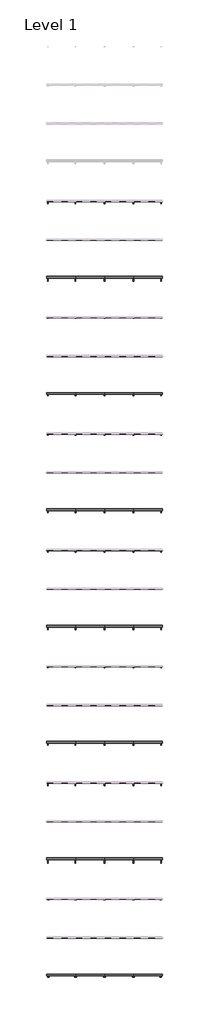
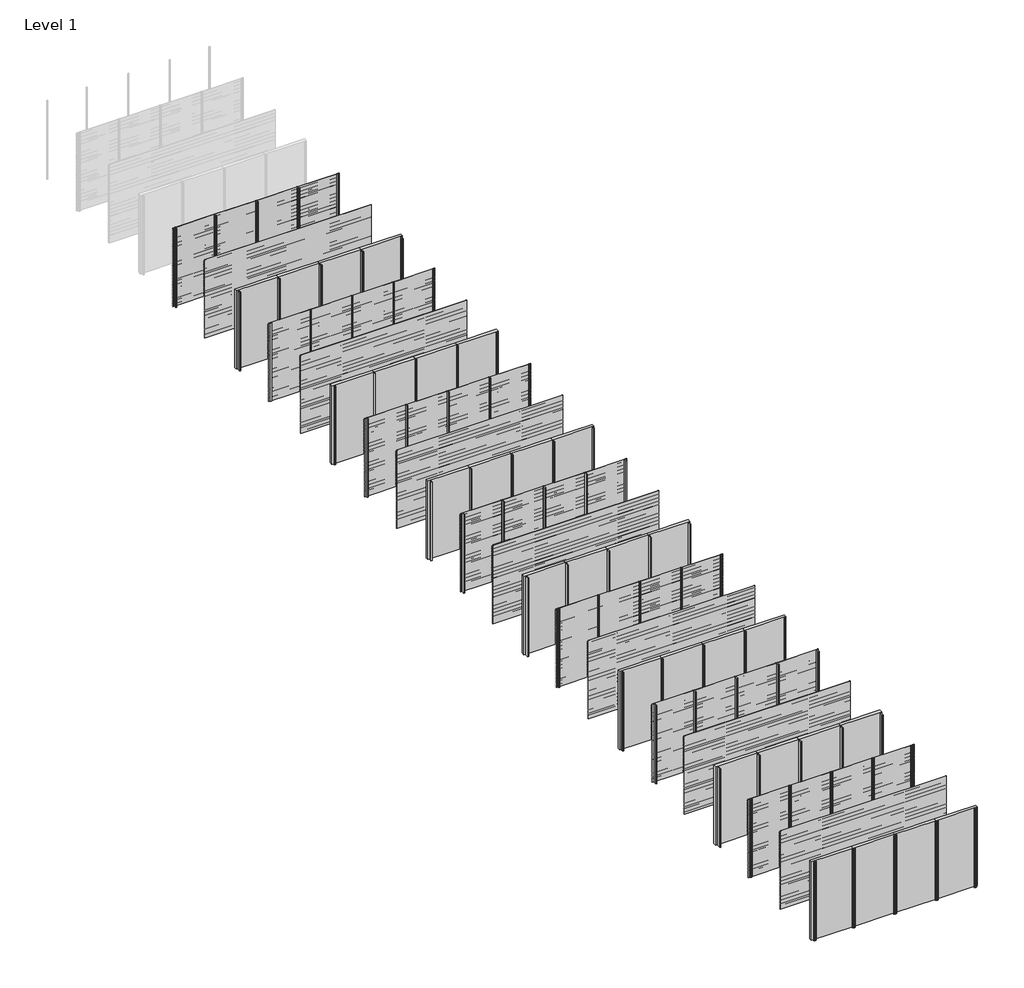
# One storey, part 1 of 35: 70 members, 63 plates.
"""IFC4 building model written with IfcOpenShell, lengths in millimetres."""

from ifc_helpers import new_model, si_unit, origin, origin_with_axes, place, context, project, spatial, polyline, outline, extrude, transform, mapped, element, save
from components import rectangular_mullion_fb497acc, rectangular_mullion_3facce28, rectangular_mullion_6cf2c509, rectangular_mullion_8b77bd57, rectangular_mullion_2c867e25, rectangular_mullion_7803f5c4, rectangular_mullion_82152e2f, rectangular_mullion_bd250e2e, rectangular_mullion_7b49c8f1, rectangular_mullion_2b84ad7e, rectangular_mullion_0fd695e7, rectangular_mullion_9b796d85, rectangular_mullion_dfb17e98, rectangular_mullion_6132f1f1, rectangular_mullion_8f153c19, rectangular_mullion_5b30f3fd, rectangular_mullion_5e0e8e0a, rectangular_mullion_d2d38772, rectangular_mullion_efb80f74, rectangular_mullion_aaa1fb1b, rectangular_mullion_ea9d012c, empty_system_panel_empty_413cb92e

model = new_model("IFC4")

# Units and contexts
model_context = context("Model", 3, world=origin())
ifc_project = project(units=[si_unit("LENGTHUNIT", "METRE", prefix="MILLI")], contexts=[model_context])

# Site, building, storey
site = spatial("IfcSite", under=ifc_project)
building = spatial("IfcBuilding", under=site)
storey = spatial("IfcBuildingStorey", under=building, Name="Level 1", Elevation=0.0)

# Members
placement = place(None, origin())
rectangular_mullion_shape = rectangular_mullion_fb497acc(model_context)
element("IfcMember", 1, ObjectType="Rectangular Mullion : NLRS_21_CWM_drager LD.0995_Storax", at=placement, inside=storey, context=model_context, shape_type="MappedRepresentation", body=[
    mapped(rectangular_mullion_shape, transform((4500.0, -18000.0, 0.0), x_axis=(-1.0, 0.0, 0.0), y_axis=(0.0, 1.0, 0.0), z_axis=(0.0, 0.0, -1.0))),
])
element("IfcMember", 2, ObjectType="Rectangular Mullion : NLRS_21_CWM_drager LD.0995_Storax", at=placement, inside=storey, context=model_context, shape_type="MappedRepresentation", body=[
    mapped(rectangular_mullion_shape, transform((3000.0, -18000.0, 0.0), x_axis=(-1.0, 0.0, 0.0), y_axis=(0.0, 1.0, 0.0), z_axis=(0.0, 0.0, -1.0))),
])
element("IfcMember", 3, ObjectType="Rectangular Mullion : NLRS_21_CWM_drager LD.0995_Storax", at=placement, inside=storey, context=model_context, shape_type="MappedRepresentation", body=[
    mapped(rectangular_mullion_shape, transform((1500.0, -18000.0, 0.0), x_axis=(-1.0, 0.0, 0.0), y_axis=(0.0, 1.0, 0.0), z_axis=(0.0, 0.0, -1.0))),
])
element("IfcMember", 4, ObjectType="Rectangular Mullion : NLRS_21_CWM_drager LD.0995_Storax", at=placement, inside=storey, context=model_context, shape_type="MappedRepresentation", body=[
    mapped(rectangular_mullion_shape, transform((4500.0, -22000.0, 0.0), x_axis=(-1.0, 0.0, 0.0), y_axis=(0.0, 1.0, 0.0), z_axis=(0.0, 0.0, -1.0))),
])
element("IfcMember", 5, ObjectType="Rectangular Mullion : NLRS_21_CWM_drager LD.0995_Storax", at=placement, inside=storey, context=model_context, shape_type="MappedRepresentation", body=[
    mapped(rectangular_mullion_shape, transform((3000.0, -22000.0, 0.0), x_axis=(-1.0, 0.0, 0.0), y_axis=(0.0, 1.0, 0.0), z_axis=(0.0, 0.0, -1.0))),
])
element("IfcMember", 6, ObjectType="Rectangular Mullion : NLRS_21_CWM_drager LD.0995_Storax", at=placement, inside=storey, context=model_context, shape_type="MappedRepresentation", body=[
    mapped(rectangular_mullion_shape, transform((1500.0, -22000.0, 0.0), x_axis=(-1.0, 0.0, 0.0), y_axis=(0.0, 1.0, 0.0), z_axis=(0.0, 0.0, -1.0))),
])
rectangular_mullion_2_shape = rectangular_mullion_3facce28(model_context)
element("IfcMember", 7, ObjectType="Rectangular Mullion : NLRS_21_CWM_drager SD.014_Storax", at=placement, inside=storey, context=model_context, shape_type="MappedRepresentation", body=[
    mapped(rectangular_mullion_2_shape, transform((4500.0, -24000.0, 0.0), x_axis=(-1.0, 0.0, 0.0), y_axis=(0.0, 1.0, 0.0), z_axis=(0.0, 0.0, -1.0))),
])
element("IfcMember", 8, ObjectType="Rectangular Mullion : NLRS_21_CWM_drager SD.014_Storax", at=placement, inside=storey, context=model_context, shape_type="MappedRepresentation", body=[
    mapped(rectangular_mullion_2_shape, transform((3000.0, -24000.0, 0.0), x_axis=(-1.0, 0.0, 0.0), y_axis=(0.0, 1.0, 0.0), z_axis=(0.0, 0.0, -1.0))),
])
element("IfcMember", 9, ObjectType="Rectangular Mullion : NLRS_21_CWM_drager SD.014_Storax", at=placement, inside=storey, context=model_context, shape_type="MappedRepresentation", body=[
    mapped(rectangular_mullion_2_shape, transform((1500.0, -24000.0, 0.0), x_axis=(-1.0, 0.0, 0.0), y_axis=(0.0, 1.0, 0.0), z_axis=(0.0, 0.0, -1.0))),
])
element("IfcMember", 10, ObjectType="Rectangular Mullion : NLRS_21_CWM_drager SD.014_Storax", at=placement, inside=storey, context=model_context, shape_type="MappedRepresentation", body=[
    mapped(rectangular_mullion_2_shape, transform((4500.0, -28000.0, 0.0), x_axis=(-1.0, 0.0, 0.0), y_axis=(0.0, 1.0, 0.0), z_axis=(0.0, 0.0, -1.0))),
])
element("IfcMember", 11, ObjectType="Rectangular Mullion : NLRS_21_CWM_drager SD.014_Storax", at=placement, inside=storey, context=model_context, shape_type="MappedRepresentation", body=[
    mapped(rectangular_mullion_2_shape, transform((3000.0, -28000.0, 0.0), x_axis=(-1.0, 0.0, 0.0), y_axis=(0.0, 1.0, 0.0), z_axis=(0.0, 0.0, -1.0))),
])
element("IfcMember", 12, ObjectType="Rectangular Mullion : NLRS_21_CWM_drager SD.014_Storax", at=placement, inside=storey, context=model_context, shape_type="MappedRepresentation", body=[
    mapped(rectangular_mullion_2_shape, transform((1500.0, -28000.0, 0.0), x_axis=(-1.0, 0.0, 0.0), y_axis=(0.0, 1.0, 0.0), z_axis=(0.0, 0.0, -1.0))),
])
rectangular_mullion_3_shape = rectangular_mullion_6cf2c509(model_context)
element("IfcMember", 13, ObjectType="Rectangular Mullion : NLRS_21_CWM_drager SD.054_Storax", at=placement, inside=storey, context=model_context, shape_type="MappedRepresentation", body=[
    mapped(rectangular_mullion_3_shape, transform((4500.0, -30000.0, 0.0), x_axis=(-1.0, 0.0, 0.0), y_axis=(0.0, 1.0, 0.0), z_axis=(0.0, 0.0, -1.0))),
])
element("IfcMember", 14, ObjectType="Rectangular Mullion : NLRS_21_CWM_drager SD.054_Storax", at=placement, inside=storey, context=model_context, shape_type="MappedRepresentation", body=[
    mapped(rectangular_mullion_3_shape, transform((3000.0, -30000.0, 0.0), x_axis=(-1.0, 0.0, 0.0), y_axis=(0.0, 1.0, 0.0), z_axis=(0.0, 0.0, -1.0))),
])
element("IfcMember", 15, ObjectType="Rectangular Mullion : NLRS_21_CWM_drager SD.054_Storax", at=placement, inside=storey, context=model_context, shape_type="MappedRepresentation", body=[
    mapped(rectangular_mullion_3_shape, transform((1500.0, -30000.0, 0.0), x_axis=(-1.0, 0.0, 0.0), y_axis=(0.0, 1.0, 0.0), z_axis=(0.0, 0.0, -1.0))),
])
element("IfcMember", 16, ObjectType="Rectangular Mullion : NLRS_21_CWM_drager SD.054_Storax", at=placement, inside=storey, context=model_context, shape_type="MappedRepresentation", body=[
    mapped(rectangular_mullion_3_shape, transform((4500.0, -34000.0, 0.0), x_axis=(-1.0, 0.0, 0.0), y_axis=(0.0, 1.0, 0.0), z_axis=(0.0, 0.0, -1.0))),
])
element("IfcMember", 17, ObjectType="Rectangular Mullion : NLRS_21_CWM_drager SD.054_Storax", at=placement, inside=storey, context=model_context, shape_type="MappedRepresentation", body=[
    mapped(rectangular_mullion_3_shape, transform((3000.0, -34000.0, 0.0), x_axis=(-1.0, 0.0, 0.0), y_axis=(0.0, 1.0, 0.0), z_axis=(0.0, 0.0, -1.0))),
])
element("IfcMember", 18, ObjectType="Rectangular Mullion : NLRS_21_CWM_drager SD.054_Storax", at=placement, inside=storey, context=model_context, shape_type="MappedRepresentation", body=[
    mapped(rectangular_mullion_3_shape, transform((1500.0, -34000.0, 0.0), x_axis=(-1.0, 0.0, 0.0), y_axis=(0.0, 1.0, 0.0), z_axis=(0.0, 0.0, -1.0))),
])
rectangular_mullion_4_shape = rectangular_mullion_8b77bd57(model_context)
element("IfcMember", 19, ObjectType="Rectangular Mullion : NLRS_21_CWM_drager SD.100_Storax", at=placement, inside=storey, context=model_context, shape_type="MappedRepresentation", body=[
    mapped(rectangular_mullion_4_shape, transform((4500.0, -36000.0, 0.0), x_axis=(-1.0, 0.0, 0.0), y_axis=(0.0, 1.0, 0.0), z_axis=(0.0, 0.0, -1.0))),
])
element("IfcMember", 20, ObjectType="Rectangular Mullion : NLRS_21_CWM_drager SD.100_Storax", at=placement, inside=storey, context=model_context, shape_type="MappedRepresentation", body=[
    mapped(rectangular_mullion_4_shape, transform((3000.0, -36000.0, 0.0), x_axis=(-1.0, 0.0, 0.0), y_axis=(0.0, 1.0, 0.0), z_axis=(0.0, 0.0, -1.0))),
])
element("IfcMember", 21, ObjectType="Rectangular Mullion : NLRS_21_CWM_drager SD.100_Storax", at=placement, inside=storey, context=model_context, shape_type="MappedRepresentation", body=[
    mapped(rectangular_mullion_4_shape, transform((1500.0, -36000.0, 0.0), x_axis=(-1.0, 0.0, 0.0), y_axis=(0.0, 1.0, 0.0), z_axis=(0.0, 0.0, -1.0))),
])
element("IfcMember", 22, ObjectType="Rectangular Mullion : NLRS_21_CWM_drager SD.100_Storax", at=placement, inside=storey, context=model_context, shape_type="MappedRepresentation", body=[
    mapped(rectangular_mullion_4_shape, transform((4500.0, -40000.0, 0.0), x_axis=(-1.0, 0.0, 0.0), y_axis=(0.0, 1.0, 0.0), z_axis=(0.0, 0.0, -1.0))),
])
element("IfcMember", 23, ObjectType="Rectangular Mullion : NLRS_21_CWM_drager SD.100_Storax", at=placement, inside=storey, context=model_context, shape_type="MappedRepresentation", body=[
    mapped(rectangular_mullion_4_shape, transform((3000.0, -40000.0, 0.0), x_axis=(-1.0, 0.0, 0.0), y_axis=(0.0, 1.0, 0.0), z_axis=(0.0, 0.0, -1.0))),
])
element("IfcMember", 24, ObjectType="Rectangular Mullion : NLRS_21_CWM_drager SD.100_Storax", at=placement, inside=storey, context=model_context, shape_type="MappedRepresentation", body=[
    mapped(rectangular_mullion_4_shape, transform((1500.0, -40000.0, 0.0), x_axis=(-1.0, 0.0, 0.0), y_axis=(0.0, 1.0, 0.0), z_axis=(0.0, 0.0, -1.0))),
])
rectangular_mullion_5_shape = rectangular_mullion_2c867e25(model_context)
element("IfcMember", 25, ObjectType="Rectangular Mullion : NLRS_21_CWM_drager LD.0440_Storax", at=placement, inside=storey, context=model_context, shape_type="MappedRepresentation", body=[
    mapped(rectangular_mullion_5_shape, transform((4500.0, -42000.0, 0.0), x_axis=(-1.0, 0.0, 0.0), y_axis=(0.0, 1.0, 0.0), z_axis=(0.0, 0.0, -1.0))),
])
element("IfcMember", 26, ObjectType="Rectangular Mullion : NLRS_21_CWM_drager LD.0440_Storax", at=placement, inside=storey, context=model_context, shape_type="MappedRepresentation", body=[
    mapped(rectangular_mullion_5_shape, transform((3000.0, -42000.0, 0.0), x_axis=(-1.0, 0.0, 0.0), y_axis=(0.0, 1.0, 0.0), z_axis=(0.0, 0.0, -1.0))),
])
element("IfcMember", 27, ObjectType="Rectangular Mullion : NLRS_21_CWM_drager LD.0440_Storax", at=placement, inside=storey, context=model_context, shape_type="MappedRepresentation", body=[
    mapped(rectangular_mullion_5_shape, transform((1500.0, -42000.0, 0.0), x_axis=(-1.0, 0.0, 0.0), y_axis=(0.0, 1.0, 0.0), z_axis=(0.0, 0.0, -1.0))),
])
element("IfcMember", 28, ObjectType="Rectangular Mullion : NLRS_21_CWM_drager LD.0440_Storax", at=placement, inside=storey, context=model_context, shape_type="MappedRepresentation", body=[
    mapped(rectangular_mullion_5_shape, transform((4500.0, -46000.0, 0.0), x_axis=(-1.0, 0.0, 0.0), y_axis=(0.0, 1.0, 0.0), z_axis=(0.0, 0.0, -1.0))),
])
element("IfcMember", 29, ObjectType="Rectangular Mullion : NLRS_21_CWM_drager LD.0440_Storax", at=placement, inside=storey, context=model_context, shape_type="MappedRepresentation", body=[
    mapped(rectangular_mullion_5_shape, transform((3000.0, -46000.0, 0.0), x_axis=(-1.0, 0.0, 0.0), y_axis=(0.0, 1.0, 0.0), z_axis=(0.0, 0.0, -1.0))),
])
element("IfcMember", 30, ObjectType="Rectangular Mullion : NLRS_21_CWM_drager LD.0440_Storax", at=placement, inside=storey, context=model_context, shape_type="MappedRepresentation", body=[
    mapped(rectangular_mullion_5_shape, transform((1500.0, -46000.0, 0.0), x_axis=(-1.0, 0.0, 0.0), y_axis=(0.0, 1.0, 0.0), z_axis=(0.0, 0.0, -1.0))),
])
rectangular_mullion_6_shape = rectangular_mullion_7803f5c4(model_context)
element("IfcMember", 31, ObjectType="Rectangular Mullion : NLRS_21_CWM_drager LD.1250_Storax", at=placement, inside=storey, context=model_context, shape_type="MappedRepresentation", body=[
    mapped(rectangular_mullion_6_shape, transform((4500.0, -48000.0, 0.0), x_axis=(-1.0, 0.0, 0.0), y_axis=(0.0, 1.0, 0.0), z_axis=(0.0, 0.0, -1.0))),
])
element("IfcMember", 32, ObjectType="Rectangular Mullion : NLRS_21_CWM_drager LD.1250_Storax", at=placement, inside=storey, context=model_context, shape_type="MappedRepresentation", body=[
    mapped(rectangular_mullion_6_shape, transform((3000.0, -48000.0, 0.0), x_axis=(-1.0, 0.0, 0.0), y_axis=(0.0, 1.0, 0.0), z_axis=(0.0, 0.0, -1.0))),
])
element("IfcMember", 33, ObjectType="Rectangular Mullion : NLRS_21_CWM_drager LD.1250_Storax", at=placement, inside=storey, context=model_context, shape_type="MappedRepresentation", body=[
    mapped(rectangular_mullion_6_shape, transform((1500.0, -48000.0, 0.0), x_axis=(-1.0, 0.0, 0.0), y_axis=(0.0, 1.0, 0.0), z_axis=(0.0, 0.0, -1.0))),
])
element("IfcMember", 34, ObjectType="Rectangular Mullion : NLRS_21_CWM_drager LD.1250_Storax", at=placement, inside=storey, context=model_context, shape_type="MappedRepresentation", body=[
    mapped(rectangular_mullion_6_shape, transform((4500.0, -52000.0, 0.0), x_axis=(-1.0, 0.0, 0.0), y_axis=(0.0, 1.0, 0.0), z_axis=(0.0, 0.0, -1.0))),
])
element("IfcMember", 35, ObjectType="Rectangular Mullion : NLRS_21_CWM_drager LD.1250_Storax", at=placement, inside=storey, context=model_context, shape_type="MappedRepresentation", body=[
    mapped(rectangular_mullion_6_shape, transform((3000.0, -52000.0, 0.0), x_axis=(-1.0, 0.0, 0.0), y_axis=(0.0, 1.0, 0.0), z_axis=(0.0, 0.0, -1.0))),
])
element("IfcMember", 36, ObjectType="Rectangular Mullion : NLRS_21_CWM_drager LD.1250_Storax", at=placement, inside=storey, context=model_context, shape_type="MappedRepresentation", body=[
    mapped(rectangular_mullion_6_shape, transform((1500.0, -52000.0, 0.0), x_axis=(-1.0, 0.0, 0.0), y_axis=(0.0, 1.0, 0.0), z_axis=(0.0, 0.0, -1.0))),
])
rectangular_mullion_7_shape = rectangular_mullion_82152e2f(model_context)
element("IfcMember", 37, ObjectType="Rectangular Mullion : NLRS_21_CWM_drager LD.0240_Storax", at=placement, inside=storey, context=model_context, shape_type="MappedRepresentation", body=[
    mapped(rectangular_mullion_7_shape, transform((4500.0, -54000.0, 0.0), x_axis=(-1.0, 0.0, 0.0), y_axis=(0.0, 1.0, 0.0), z_axis=(0.0, 0.0, -1.0))),
])
element("IfcMember", 38, ObjectType="Rectangular Mullion : NLRS_21_CWM_drager LD.0240_Storax", at=placement, inside=storey, context=model_context, shape_type="MappedRepresentation", body=[
    mapped(rectangular_mullion_7_shape, transform((3000.0, -54000.0, 0.0), x_axis=(-1.0, 0.0, 0.0), y_axis=(0.0, 1.0, 0.0), z_axis=(0.0, 0.0, -1.0))),
])
element("IfcMember", 39, ObjectType="Rectangular Mullion : NLRS_21_CWM_drager LD.0240_Storax", at=placement, inside=storey, context=model_context, shape_type="MappedRepresentation", body=[
    mapped(rectangular_mullion_7_shape, transform((1500.0, -54000.0, 0.0), x_axis=(-1.0, 0.0, 0.0), y_axis=(0.0, 1.0, 0.0), z_axis=(0.0, 0.0, -1.0))),
])
element("IfcMember", 40, ObjectType="Rectangular Mullion : NLRS_21_CWM_drager LD.0240_Storax", at=placement, inside=storey, context=model_context, shape_type="MappedRepresentation", body=[
    mapped(rectangular_mullion_7_shape, transform((4500.0, -58000.0, 0.0), x_axis=(-1.0, 0.0, 0.0), y_axis=(0.0, 1.0, 0.0), z_axis=(0.0, 0.0, -1.0))),
])
element("IfcMember", 41, ObjectType="Rectangular Mullion : NLRS_21_CWM_drager LD.0240_Storax", at=placement, inside=storey, context=model_context, shape_type="MappedRepresentation", body=[
    mapped(rectangular_mullion_7_shape, transform((3000.0, -58000.0, 0.0), x_axis=(-1.0, 0.0, 0.0), y_axis=(0.0, 1.0, 0.0), z_axis=(0.0, 0.0, -1.0))),
])
element("IfcMember", 42, ObjectType="Rectangular Mullion : NLRS_21_CWM_drager LD.0240_Storax", at=placement, inside=storey, context=model_context, shape_type="MappedRepresentation", body=[
    mapped(rectangular_mullion_7_shape, transform((1500.0, -58000.0, 0.0), x_axis=(-1.0, 0.0, 0.0), y_axis=(0.0, 1.0, 0.0), z_axis=(0.0, 0.0, -1.0))),
])
rectangular_mullion_8_shape = rectangular_mullion_bd250e2e(model_context)
element("IfcMember", 43, ObjectType="Rectangular Mullion : NLRS_21_CWM_drager LD.0995 - links_Storax", at=placement, inside=storey, context=model_context, shape_type="MappedRepresentation", body=[
    mapped(rectangular_mullion_8_shape, transform((0.0, -18000.0, 0.0), x_axis=(-1.0, 0.0, 0.0), y_axis=(0.0, 1.0, 0.0), z_axis=(0.0, 0.0, -1.0))),
])
element("IfcMember", 44, ObjectType="Rectangular Mullion : NLRS_21_CWM_drager LD.0995 - links_Storax", at=placement, inside=storey, context=model_context, shape_type="MappedRepresentation", body=[
    mapped(rectangular_mullion_8_shape, transform((0.0, -22000.0, 0.0), x_axis=(-1.0, 0.0, 0.0), y_axis=(0.0, 1.0, 0.0), z_axis=(0.0, 0.0, -1.0))),
])
rectangular_mullion_9_shape = rectangular_mullion_7b49c8f1(model_context)
element("IfcMember", 45, ObjectType="Rectangular Mullion : NLRS_21_CWM_drager LD.0995 - rechts_Storax", at=placement, inside=storey, context=model_context, shape_type="MappedRepresentation", body=[
    mapped(rectangular_mullion_9_shape, transform((6000.0, -18000.0, 3000.0), x_axis=(1.0, 0.0, 0.0), y_axis=(0.0, 1.0, 0.0), z_axis=(0.0, 0.0, 1.0))),
])
element("IfcMember", 46, ObjectType="Rectangular Mullion : NLRS_21_CWM_drager LD.0995 - rechts_Storax", at=placement, inside=storey, context=model_context, shape_type="MappedRepresentation", body=[
    mapped(rectangular_mullion_9_shape, transform((6000.0, -22000.0, 3000.0), x_axis=(1.0, 0.0, 0.0), y_axis=(0.0, 1.0, 0.0), z_axis=(0.0, 0.0, 1.0))),
])
rectangular_mullion_10_shape = rectangular_mullion_2b84ad7e(model_context)
element("IfcMember", 47, ObjectType="Rectangular Mullion : NLRS_21_CWM_drager SD.014 - links_Storax", at=placement, inside=storey, context=model_context, shape_type="MappedRepresentation", body=[
    mapped(rectangular_mullion_10_shape, transform((0.0, -24000.0, 0.0), x_axis=(-1.0, 0.0, 0.0), y_axis=(0.0, 1.0, 0.0), z_axis=(0.0, 0.0, -1.0))),
])
element("IfcMember", 48, ObjectType="Rectangular Mullion : NLRS_21_CWM_drager SD.014 - links_Storax", at=placement, inside=storey, context=model_context, shape_type="MappedRepresentation", body=[
    mapped(rectangular_mullion_10_shape, transform((0.0, -28000.0, 0.0), x_axis=(-1.0, 0.0, 0.0), y_axis=(0.0, 1.0, 0.0), z_axis=(0.0, 0.0, -1.0))),
])
rectangular_mullion_11_shape = rectangular_mullion_0fd695e7(model_context)
element("IfcMember", 49, ObjectType="Rectangular Mullion : NLRS_21_CWM_drager SD.014 - rechts_Storax", at=placement, inside=storey, context=model_context, shape_type="MappedRepresentation", body=[
    mapped(rectangular_mullion_11_shape, transform((6000.0, -24000.0, 3000.0), x_axis=(1.0, 0.0, 0.0), y_axis=(0.0, 1.0, 0.0), z_axis=(0.0, 0.0, 1.0))),
])
element("IfcMember", 50, ObjectType="Rectangular Mullion : NLRS_21_CWM_drager SD.014 - rechts_Storax", at=placement, inside=storey, context=model_context, shape_type="MappedRepresentation", body=[
    mapped(rectangular_mullion_11_shape, transform((6000.0, -28000.0, 3000.0), x_axis=(1.0, 0.0, 0.0), y_axis=(0.0, 1.0, 0.0), z_axis=(0.0, 0.0, 1.0))),
])
rectangular_mullion_12_shape = rectangular_mullion_9b796d85(model_context)
element("IfcMember", 51, ObjectType="Rectangular Mullion : NLRS_21_CWM_drager SD.054 - links_Storax", at=placement, inside=storey, context=model_context, shape_type="MappedRepresentation", body=[
    mapped(rectangular_mullion_12_shape, transform((0.0, -30000.0, 0.0), x_axis=(-1.0, 0.0, 0.0), y_axis=(0.0, 1.0, 0.0), z_axis=(0.0, 0.0, -1.0))),
])
element("IfcMember", 52, ObjectType="Rectangular Mullion : NLRS_21_CWM_drager SD.054 - links_Storax", at=placement, inside=storey, context=model_context, shape_type="MappedRepresentation", body=[
    mapped(rectangular_mullion_12_shape, transform((0.0, -34000.0, 0.0), x_axis=(-1.0, 0.0, 0.0), y_axis=(0.0, 1.0, 0.0), z_axis=(0.0, 0.0, -1.0))),
])
rectangular_mullion_13_shape = rectangular_mullion_dfb17e98(model_context)
element("IfcMember", 53, ObjectType="Rectangular Mullion : NLRS_21_CWM_drager SD.054 - rechts_Storax", at=placement, inside=storey, context=model_context, shape_type="MappedRepresentation", body=[
    mapped(rectangular_mullion_13_shape, transform((6000.0, -30000.0, 3000.0), x_axis=(1.0, 0.0, 0.0), y_axis=(0.0, 1.0, 0.0), z_axis=(0.0, 0.0, 1.0))),
])
element("IfcMember", 54, ObjectType="Rectangular Mullion : NLRS_21_CWM_drager SD.054 - rechts_Storax", at=placement, inside=storey, context=model_context, shape_type="MappedRepresentation", body=[
    mapped(rectangular_mullion_13_shape, transform((6000.0, -34000.0, 3000.0), x_axis=(1.0, 0.0, 0.0), y_axis=(0.0, 1.0, 0.0), z_axis=(0.0, 0.0, 1.0))),
])
rectangular_mullion_14_shape = rectangular_mullion_6132f1f1(model_context)
element("IfcMember", 55, ObjectType="Rectangular Mullion : NLRS_21_CWM_drager SD.100 - links_Storax", at=placement, inside=storey, context=model_context, shape_type="MappedRepresentation", body=[
    mapped(rectangular_mullion_14_shape, transform((0.0, -36000.0, 0.0), x_axis=(-1.0, 0.0, 0.0), y_axis=(0.0, 1.0, 0.0), z_axis=(0.0, 0.0, -1.0))),
])
element("IfcMember", 56, ObjectType="Rectangular Mullion : NLRS_21_CWM_drager SD.100 - links_Storax", at=placement, inside=storey, context=model_context, shape_type="MappedRepresentation", body=[
    mapped(rectangular_mullion_14_shape, transform((0.0, -40000.0, 0.0), x_axis=(-1.0, 0.0, 0.0), y_axis=(0.0, 1.0, 0.0), z_axis=(0.0, 0.0, -1.0))),
])
rectangular_mullion_15_shape = rectangular_mullion_8f153c19(model_context)
element("IfcMember", 57, ObjectType="Rectangular Mullion : NLRS_21_CWM_drager SD.100 - rechts_Storax", at=placement, inside=storey, context=model_context, shape_type="MappedRepresentation", body=[
    mapped(rectangular_mullion_15_shape, transform((6000.0, -36000.0, 3000.0), x_axis=(1.0, 0.0, 0.0), y_axis=(0.0, 1.0, 0.0), z_axis=(0.0, 0.0, 1.0))),
])
element("IfcMember", 58, ObjectType="Rectangular Mullion : NLRS_21_CWM_drager SD.100 - rechts_Storax", at=placement, inside=storey, context=model_context, shape_type="MappedRepresentation", body=[
    mapped(rectangular_mullion_15_shape, transform((6000.0, -40000.0, 3000.0), x_axis=(1.0, 0.0, 0.0), y_axis=(0.0, 1.0, 0.0), z_axis=(0.0, 0.0, 1.0))),
])
rectangular_mullion_16_shape = rectangular_mullion_5b30f3fd(model_context)
element("IfcMember", 59, ObjectType="Rectangular Mullion : NLRS_21_CWM_drager LD.0440 - links_Storax", at=placement, inside=storey, context=model_context, shape_type="MappedRepresentation", body=[
    mapped(rectangular_mullion_16_shape, transform((0.0, -42000.0, 0.0), x_axis=(-1.0, 0.0, 0.0), y_axis=(0.0, 1.0, 0.0), z_axis=(0.0, 0.0, -1.0))),
])
element("IfcMember", 60, ObjectType="Rectangular Mullion : NLRS_21_CWM_drager LD.0440 - links_Storax", at=placement, inside=storey, context=model_context, shape_type="MappedRepresentation", body=[
    mapped(rectangular_mullion_16_shape, transform((0.0, -46000.0, 0.0), x_axis=(-1.0, 0.0, 0.0), y_axis=(0.0, 1.0, 0.0), z_axis=(0.0, 0.0, -1.0))),
])
rectangular_mullion_17_shape = rectangular_mullion_5e0e8e0a(model_context)
element("IfcMember", 61, ObjectType="Rectangular Mullion : NLRS_21_CWM_drager LD.0440 - rechts_Storax", at=placement, inside=storey, context=model_context, shape_type="MappedRepresentation", body=[
    mapped(rectangular_mullion_17_shape, transform((6000.0, -42000.0, 3000.0), x_axis=(1.0, 0.0, 0.0), y_axis=(0.0, 1.0, 0.0), z_axis=(0.0, 0.0, 1.0))),
])
element("IfcMember", 62, ObjectType="Rectangular Mullion : NLRS_21_CWM_drager LD.0440 - rechts_Storax", at=placement, inside=storey, context=model_context, shape_type="MappedRepresentation", body=[
    mapped(rectangular_mullion_17_shape, transform((6000.0, -46000.0, 3000.0), x_axis=(1.0, 0.0, 0.0), y_axis=(0.0, 1.0, 0.0), z_axis=(0.0, 0.0, 1.0))),
])
rectangular_mullion_18_shape = rectangular_mullion_d2d38772(model_context)
element("IfcMember", 63, ObjectType="Rectangular Mullion : NLRS_21_CWM_drager LD.1250 - links_Storax", at=placement, inside=storey, context=model_context, shape_type="MappedRepresentation", body=[
    mapped(rectangular_mullion_18_shape, transform((0.0, -48000.0, 0.0), x_axis=(-1.0, 0.0, 0.0), y_axis=(0.0, 1.0, 0.0), z_axis=(0.0, 0.0, -1.0))),
])
element("IfcMember", 64, ObjectType="Rectangular Mullion : NLRS_21_CWM_drager LD.1250 - links_Storax", at=placement, inside=storey, context=model_context, shape_type="MappedRepresentation", body=[
    mapped(rectangular_mullion_18_shape, transform((0.0, -52000.0, 0.0), x_axis=(-1.0, 0.0, 0.0), y_axis=(0.0, 1.0, 0.0), z_axis=(0.0, 0.0, -1.0))),
])
rectangular_mullion_19_shape = rectangular_mullion_efb80f74(model_context)
element("IfcMember", 65, ObjectType="Rectangular Mullion : NLRS_21_CWM_drager LD.1250 - rechts_Storax", at=placement, inside=storey, context=model_context, shape_type="MappedRepresentation", body=[
    mapped(rectangular_mullion_19_shape, transform((6000.0, -48000.0, 3000.0), x_axis=(1.0, 0.0, 0.0), y_axis=(0.0, 1.0, 0.0), z_axis=(0.0, 0.0, 1.0))),
])
element("IfcMember", 66, ObjectType="Rectangular Mullion : NLRS_21_CWM_drager LD.1250 - rechts_Storax", at=placement, inside=storey, context=model_context, shape_type="MappedRepresentation", body=[
    mapped(rectangular_mullion_19_shape, transform((6000.0, -52000.0, 3000.0), x_axis=(1.0, 0.0, 0.0), y_axis=(0.0, 1.0, 0.0), z_axis=(0.0, 0.0, 1.0))),
])
rectangular_mullion_20_shape = rectangular_mullion_aaa1fb1b(model_context)
element("IfcMember", 67, ObjectType="Rectangular Mullion : NLRS_21_CWM_drager LD.0240 - links_Storax", at=placement, inside=storey, context=model_context, shape_type="MappedRepresentation", body=[
    mapped(rectangular_mullion_20_shape, transform((0.0, -54000.0, 0.0), x_axis=(-1.0, 0.0, 0.0), y_axis=(0.0, 1.0, 0.0), z_axis=(0.0, 0.0, -1.0))),
])
element("IfcMember", 68, ObjectType="Rectangular Mullion : NLRS_21_CWM_drager LD.0240 - links_Storax", at=placement, inside=storey, context=model_context, shape_type="MappedRepresentation", body=[
    mapped(rectangular_mullion_20_shape, transform((0.0, -58000.0, 0.0), x_axis=(-1.0, 0.0, 0.0), y_axis=(0.0, 1.0, 0.0), z_axis=(0.0, 0.0, -1.0))),
])
rectangular_mullion_21_shape = rectangular_mullion_ea9d012c(model_context)
element("IfcMember", 69, ObjectType="Rectangular Mullion : NLRS_21_CWM_drager LD.0240 - rechts_Storax", at=placement, inside=storey, context=model_context, shape_type="MappedRepresentation", body=[
    mapped(rectangular_mullion_21_shape, transform((6000.0, -54000.0, 3000.0), x_axis=(1.0, 0.0, 0.0), y_axis=(0.0, 1.0, 0.0), z_axis=(0.0, 0.0, 1.0))),
])
element("IfcMember", 70, ObjectType="Rectangular Mullion : NLRS_21_CWM_drager LD.0240 - rechts_Storax", at=placement, inside=storey, context=model_context, shape_type="MappedRepresentation", body=[
    mapped(rectangular_mullion_21_shape, transform((6000.0, -58000.0, 3000.0), x_axis=(1.0, 0.0, 0.0), y_axis=(0.0, 1.0, 0.0), z_axis=(0.0, 0.0, 1.0))),
])

# Plates
element("IfcPlate", 71, ObjectType="NLRS_21_WA_lamellenwand Linius - L.066V_Storax", at=placement, inside=storey, context=model_context, shape_type="SweptSolid", body=[
    extrude(outline(polyline([(0.0, -17999.0), (1500.0, -17999.0), (1500.0, -18001.0), (0.0, -18001.0), (0.0, -17999.0)])), origin_with_axes(), (0.0, 0.0, 1.0), 3000.0),
])
element("IfcPlate", 72, ObjectType="NLRS_21_WA_lamellenwand Linius - L.066V_Storax", at=placement, inside=storey, context=model_context, shape_type="SweptSolid", body=[
    extrude(outline(polyline([(1500.0, -17999.0), (3000.0, -17999.0), (3000.0, -18001.0), (1500.0, -18001.0), (1500.0, -17999.0)])), origin_with_axes(), (0.0, 0.0, 1.0), 3000.0),
])
element("IfcPlate", 73, ObjectType="NLRS_21_WA_lamellenwand Linius - L.066V_Storax", at=placement, inside=storey, context=model_context, shape_type="SweptSolid", body=[
    extrude(outline(polyline([(3000.0, -17999.0), (4500.0, -17999.0), (4500.0, -18001.0), (3000.0, -18001.0), (3000.0, -17999.0)])), origin_with_axes(), (0.0, 0.0, 1.0), 3000.0),
])
element("IfcPlate", 74, ObjectType="NLRS_21_WA_lamellenwand Linius - L.066V_Storax", at=placement, inside=storey, context=model_context, shape_type="SweptSolid", body=[
    extrude(outline(polyline([(4500.0, -17999.0), (6000.0, -17999.0), (6000.0, -18001.0), (4500.0, -18001.0), (4500.0, -17999.0)])), origin_with_axes(), (0.0, 0.0, 1.0), 3000.0),
])
element("IfcPlate", 75, ObjectType="NLRS_21_WA_lamellenwand Linius - L.066V_Storax", at=placement, inside=storey, context=model_context, shape_type="SweptSolid", body=[
    extrude(outline(polyline([(0.0, -19999.0), (6000.0, -19999.0), (6000.0, -20001.0), (0.0, -20001.0), (0.0, -19999.0)])), origin_with_axes(), (0.0, 0.0, 1.0), 3000.0),
])
element("IfcPlate", 76, ObjectType="NLRS_21_WA_lamellenwand Linius - L.066V_Storax", at=placement, inside=storey, context=model_context, shape_type="SweptSolid", body=[
    extrude(outline(polyline([(0.0, -23999.0), (1500.0, -23999.0), (1500.0, -24001.0), (0.0, -24001.0), (0.0, -23999.0)])), origin_with_axes(), (0.0, 0.0, 1.0), 3000.0),
])
element("IfcPlate", 77, ObjectType="NLRS_21_WA_lamellenwand Linius - L.066V_Storax", at=placement, inside=storey, context=model_context, shape_type="SweptSolid", body=[
    extrude(outline(polyline([(1500.0, -23999.0), (3000.0, -23999.0), (3000.0, -24001.0), (1500.0, -24001.0), (1500.0, -23999.0)])), origin_with_axes(), (0.0, 0.0, 1.0), 3000.0),
])
element("IfcPlate", 78, ObjectType="NLRS_21_WA_lamellenwand Linius - L.066V_Storax", at=placement, inside=storey, context=model_context, shape_type="SweptSolid", body=[
    extrude(outline(polyline([(3000.0, -23999.0), (4500.0, -23999.0), (4500.0, -24001.0), (3000.0, -24001.0), (3000.0, -23999.0)])), origin_with_axes(), (0.0, 0.0, 1.0), 3000.0),
])
element("IfcPlate", 79, ObjectType="NLRS_21_WA_lamellenwand Linius - L.066V_Storax", at=placement, inside=storey, context=model_context, shape_type="SweptSolid", body=[
    extrude(outline(polyline([(4500.0, -23999.0), (6000.0, -23999.0), (6000.0, -24001.0), (4500.0, -24001.0), (4500.0, -23999.0)])), origin_with_axes(), (0.0, 0.0, 1.0), 3000.0),
])
element("IfcPlate", 80, ObjectType="NLRS_21_WA_lamellenwand Linius - L.066V_Storax", at=placement, inside=storey, context=model_context, shape_type="SweptSolid", body=[
    extrude(outline(polyline([(0.0, -25999.0), (6000.0, -25999.0), (6000.0, -26001.0), (0.0, -26001.0), (0.0, -25999.0)])), origin_with_axes(), (0.0, 0.0, 1.0), 3000.0),
])
element("IfcPlate", 81, ObjectType="NLRS_21_WA_lamellenwand Linius - L.066V_Storax", at=placement, inside=storey, context=model_context, shape_type="SweptSolid", body=[
    extrude(outline(polyline([(0.0, -29999.0), (1500.0, -29999.0), (1500.0, -30001.0), (0.0, -30001.0), (0.0, -29999.0)])), origin_with_axes(), (0.0, 0.0, 1.0), 3000.0),
])
element("IfcPlate", 82, ObjectType="NLRS_21_WA_lamellenwand Linius - L.066V_Storax", at=placement, inside=storey, context=model_context, shape_type="SweptSolid", body=[
    extrude(outline(polyline([(1500.0, -29999.0), (3000.0, -29999.0), (3000.0, -30001.0), (1500.0, -30001.0), (1500.0, -29999.0)])), origin_with_axes(), (0.0, 0.0, 1.0), 3000.0),
])
element("IfcPlate", 83, ObjectType="NLRS_21_WA_lamellenwand Linius - L.066V_Storax", at=placement, inside=storey, context=model_context, shape_type="SweptSolid", body=[
    extrude(outline(polyline([(3000.0, -29999.0), (4500.0, -29999.0), (4500.0, -30001.0), (3000.0, -30001.0), (3000.0, -29999.0)])), origin_with_axes(), (0.0, 0.0, 1.0), 3000.0),
])
element("IfcPlate", 84, ObjectType="NLRS_21_WA_lamellenwand Linius - L.066V_Storax", at=placement, inside=storey, context=model_context, shape_type="SweptSolid", body=[
    extrude(outline(polyline([(4500.0, -29999.0), (6000.0, -29999.0), (6000.0, -30001.0), (4500.0, -30001.0), (4500.0, -29999.0)])), origin_with_axes(), (0.0, 0.0, 1.0), 3000.0),
])
element("IfcPlate", 85, ObjectType="NLRS_21_WA_lamellenwand Linius - L.066V_Storax", at=placement, inside=storey, context=model_context, shape_type="SweptSolid", body=[
    extrude(outline(polyline([(0.0, -31999.0), (6000.0, -31999.0), (6000.0, -32001.0), (0.0, -32001.0), (0.0, -31999.0)])), origin_with_axes(), (0.0, 0.0, 1.0), 3000.0),
])
element("IfcPlate", 86, ObjectType="NLRS_21_WA_lamellenwand Linius - L.066V_Storax", at=placement, inside=storey, context=model_context, shape_type="SweptSolid", body=[
    extrude(outline(polyline([(0.0, -35999.0), (1500.0, -35999.0), (1500.0, -36001.0), (0.0, -36001.0), (0.0, -35999.0)])), origin_with_axes(), (0.0, 0.0, 1.0), 3000.0),
])
element("IfcPlate", 87, ObjectType="NLRS_21_WA_lamellenwand Linius - L.066V_Storax", at=placement, inside=storey, context=model_context, shape_type="SweptSolid", body=[
    extrude(outline(polyline([(1500.0, -35999.0), (3000.0, -35999.0), (3000.0, -36001.0), (1500.0, -36001.0), (1500.0, -35999.0)])), origin_with_axes(), (0.0, 0.0, 1.0), 3000.0),
])
element("IfcPlate", 88, ObjectType="NLRS_21_WA_lamellenwand Linius - L.066V_Storax", at=placement, inside=storey, context=model_context, shape_type="SweptSolid", body=[
    extrude(outline(polyline([(3000.0, -35999.0), (4500.0, -35999.0), (4500.0, -36001.0), (3000.0, -36001.0), (3000.0, -35999.0)])), origin_with_axes(), (0.0, 0.0, 1.0), 3000.0),
])
element("IfcPlate", 89, ObjectType="NLRS_21_WA_lamellenwand Linius - L.066V_Storax", at=placement, inside=storey, context=model_context, shape_type="SweptSolid", body=[
    extrude(outline(polyline([(4500.0, -35999.0), (6000.0, -35999.0), (6000.0, -36001.0), (4500.0, -36001.0), (4500.0, -35999.0)])), origin_with_axes(), (0.0, 0.0, 1.0), 3000.0),
])
element("IfcPlate", 90, ObjectType="NLRS_21_WA_lamellenwand Linius - L.066V_Storax", at=placement, inside=storey, context=model_context, shape_type="SweptSolid", body=[
    extrude(outline(polyline([(0.0, -37999.0), (6000.0, -37999.0), (6000.0, -38001.0), (0.0, -38001.0), (0.0, -37999.0)])), origin_with_axes(), (0.0, 0.0, 1.0), 3000.0),
])
element("IfcPlate", 91, ObjectType="NLRS_21_WA_lamellenwand Linius - L.066V_Storax", at=placement, inside=storey, context=model_context, shape_type="SweptSolid", body=[
    extrude(outline(polyline([(0.0, -41999.0), (1500.0, -41999.0), (1500.0, -42001.0), (0.0, -42001.0), (0.0, -41999.0)])), origin_with_axes(), (0.0, 0.0, 1.0), 3000.0),
])
element("IfcPlate", 92, ObjectType="NLRS_21_WA_lamellenwand Linius - L.066V_Storax", at=placement, inside=storey, context=model_context, shape_type="SweptSolid", body=[
    extrude(outline(polyline([(1500.0, -41999.0), (3000.0, -41999.0), (3000.0, -42001.0), (1500.0, -42001.0), (1500.0, -41999.0)])), origin_with_axes(), (0.0, 0.0, 1.0), 3000.0),
])
element("IfcPlate", 93, ObjectType="NLRS_21_WA_lamellenwand Linius - L.066V_Storax", at=placement, inside=storey, context=model_context, shape_type="SweptSolid", body=[
    extrude(outline(polyline([(3000.0, -41999.0), (4500.0, -41999.0), (4500.0, -42001.0), (3000.0, -42001.0), (3000.0, -41999.0)])), origin_with_axes(), (0.0, 0.0, 1.0), 3000.0),
])
element("IfcPlate", 94, ObjectType="NLRS_21_WA_lamellenwand Linius - L.066V_Storax", at=placement, inside=storey, context=model_context, shape_type="SweptSolid", body=[
    extrude(outline(polyline([(4500.0, -41999.0), (6000.0, -41999.0), (6000.0, -42001.0), (4500.0, -42001.0), (4500.0, -41999.0)])), origin_with_axes(), (0.0, 0.0, 1.0), 3000.0),
])
element("IfcPlate", 95, ObjectType="NLRS_21_WA_lamellenwand Linius - L.066V_Storax", at=placement, inside=storey, context=model_context, shape_type="SweptSolid", body=[
    extrude(outline(polyline([(0.0, -43999.0), (6000.0, -43999.0), (6000.0, -44001.0), (0.0, -44001.0), (0.0, -43999.0)])), origin_with_axes(), (0.0, 0.0, 1.0), 3000.0),
])
element("IfcPlate", 96, ObjectType="NLRS_21_WA_lamellenwand Linius - L.066V_Storax", at=placement, inside=storey, context=model_context, shape_type="SweptSolid", body=[
    extrude(outline(polyline([(0.0, -47999.0), (1500.0, -47999.0), (1500.0, -48001.0), (0.0, -48001.0), (0.0, -47999.0)])), origin_with_axes(), (0.0, 0.0, 1.0), 3000.0),
])
element("IfcPlate", 97, ObjectType="NLRS_21_WA_lamellenwand Linius - L.066V_Storax", at=placement, inside=storey, context=model_context, shape_type="SweptSolid", body=[
    extrude(outline(polyline([(1500.0, -47999.0), (3000.0, -47999.0), (3000.0, -48001.0), (1500.0, -48001.0), (1500.0, -47999.0)])), origin_with_axes(), (0.0, 0.0, 1.0), 3000.0),
])
element("IfcPlate", 98, ObjectType="NLRS_21_WA_lamellenwand Linius - L.066V_Storax", at=placement, inside=storey, context=model_context, shape_type="SweptSolid", body=[
    extrude(outline(polyline([(3000.0, -47999.0), (4500.0, -47999.0), (4500.0, -48001.0), (3000.0, -48001.0), (3000.0, -47999.0)])), origin_with_axes(), (0.0, 0.0, 1.0), 3000.0),
])
element("IfcPlate", 99, ObjectType="NLRS_21_WA_lamellenwand Linius - L.066V_Storax", at=placement, inside=storey, context=model_context, shape_type="SweptSolid", body=[
    extrude(outline(polyline([(4500.0, -47999.0), (6000.0, -47999.0), (6000.0, -48001.0), (4500.0, -48001.0), (4500.0, -47999.0)])), origin_with_axes(), (0.0, 0.0, 1.0), 3000.0),
])
element("IfcPlate", 100, ObjectType="NLRS_21_WA_lamellenwand Linius - L.066V_Storax", at=placement, inside=storey, context=model_context, shape_type="SweptSolid", body=[
    extrude(outline(polyline([(0.0, -49999.0), (6000.0, -49999.0), (6000.0, -50001.0), (0.0, -50001.0), (0.0, -49999.0)])), origin_with_axes(), (0.0, 0.0, 1.0), 3000.0),
])
element("IfcPlate", 101, ObjectType="NLRS_21_WA_lamellenwand Linius - L.066V_Storax", at=placement, inside=storey, context=model_context, shape_type="SweptSolid", body=[
    extrude(outline(polyline([(0.0, -53999.0), (1500.0, -53999.0), (1500.0, -54001.0), (0.0, -54001.0), (0.0, -53999.0)])), origin_with_axes(), (0.0, 0.0, 1.0), 3000.0),
])
element("IfcPlate", 102, ObjectType="NLRS_21_WA_lamellenwand Linius - L.066V_Storax", at=placement, inside=storey, context=model_context, shape_type="SweptSolid", body=[
    extrude(outline(polyline([(1500.0, -53999.0), (3000.0, -53999.0), (3000.0, -54001.0), (1500.0, -54001.0), (1500.0, -53999.0)])), origin_with_axes(), (0.0, 0.0, 1.0), 3000.0),
])
element("IfcPlate", 103, ObjectType="NLRS_21_WA_lamellenwand Linius - L.066V_Storax", at=placement, inside=storey, context=model_context, shape_type="SweptSolid", body=[
    extrude(outline(polyline([(3000.0, -53999.0), (4500.0, -53999.0), (4500.0, -54001.0), (3000.0, -54001.0), (3000.0, -53999.0)])), origin_with_axes(), (0.0, 0.0, 1.0), 3000.0),
])
element("IfcPlate", 104, ObjectType="NLRS_21_WA_lamellenwand Linius - L.066V_Storax", at=placement, inside=storey, context=model_context, shape_type="SweptSolid", body=[
    extrude(outline(polyline([(4500.0, -53999.0), (6000.0, -53999.0), (6000.0, -54001.0), (4500.0, -54001.0), (4500.0, -53999.0)])), origin_with_axes(), (0.0, 0.0, 1.0), 3000.0),
])
element("IfcPlate", 105, ObjectType="NLRS_21_WA_lamellenwand Linius - L.066V_Storax", at=placement, inside=storey, context=model_context, shape_type="SweptSolid", body=[
    extrude(outline(polyline([(0.0, -55999.0), (6000.0, -55999.0), (6000.0, -56001.0), (0.0, -56001.0), (0.0, -55999.0)])), origin_with_axes(), (0.0, 0.0, 1.0), 3000.0),
])
empty_system_panel_empty_shape = empty_system_panel_empty_413cb92e(model_context)
element("IfcPlate", 106, ObjectType="Empty System Panel : Empty", at=placement, inside=storey, context=model_context, shape_type="MappedRepresentation", body=[
    mapped(empty_system_panel_empty_shape, transform((5250.0, -22000.0, 0.0), x_axis=(-1.0, 0.0, 0.0), y_axis=(0.0, -1.0, 0.0), z_axis=(0.0, 0.0, 1.0))),
])
element("IfcPlate", 107, ObjectType="Empty System Panel : Empty", at=placement, inside=storey, context=model_context, shape_type="MappedRepresentation", body=[
    mapped(empty_system_panel_empty_shape, transform((5250.0, -28000.0, 0.0), x_axis=(-1.0, 0.0, 0.0), y_axis=(0.0, -1.0, 0.0), z_axis=(0.0, 0.0, 1.0))),
])
element("IfcPlate", 108, ObjectType="Empty System Panel : Empty", at=placement, inside=storey, context=model_context, shape_type="MappedRepresentation", body=[
    mapped(empty_system_panel_empty_shape, transform((5250.0, -34000.0, 0.0), x_axis=(-1.0, 0.0, 0.0), y_axis=(0.0, -1.0, 0.0), z_axis=(0.0, 0.0, 1.0))),
])
element("IfcPlate", 109, ObjectType="Empty System Panel : Empty", at=placement, inside=storey, context=model_context, shape_type="MappedRepresentation", body=[
    mapped(empty_system_panel_empty_shape, transform((5250.0, -40000.0, 0.0), x_axis=(-1.0, 0.0, 0.0), y_axis=(0.0, -1.0, 0.0), z_axis=(0.0, 0.0, 1.0))),
])
element("IfcPlate", 110, ObjectType="Empty System Panel : Empty", at=placement, inside=storey, context=model_context, shape_type="MappedRepresentation", body=[
    mapped(empty_system_panel_empty_shape, transform((5250.0, -46000.0, 0.0), x_axis=(-1.0, 0.0, 0.0), y_axis=(0.0, -1.0, 0.0), z_axis=(0.0, 0.0, 1.0))),
])
element("IfcPlate", 111, ObjectType="Empty System Panel : Empty", at=placement, inside=storey, context=model_context, shape_type="MappedRepresentation", body=[
    mapped(empty_system_panel_empty_shape, transform((5250.0, -52000.0, 0.0), x_axis=(-1.0, 0.0, 0.0), y_axis=(0.0, -1.0, 0.0), z_axis=(0.0, 0.0, 1.0))),
])
element("IfcPlate", 112, ObjectType="Empty System Panel : Empty", at=placement, inside=storey, context=model_context, shape_type="MappedRepresentation", body=[
    mapped(empty_system_panel_empty_shape, transform((5250.0, -58000.0, 0.0), x_axis=(-1.0, 0.0, 0.0), y_axis=(0.0, -1.0, 0.0), z_axis=(0.0, 0.0, 1.0))),
])
element("IfcPlate", 113, ObjectType="Empty System Panel : Empty", at=placement, inside=storey, context=model_context, shape_type="MappedRepresentation", body=[
    mapped(empty_system_panel_empty_shape, transform((3750.0, -22000.0, 0.0), x_axis=(-1.0, 0.0, 0.0), y_axis=(0.0, -1.0, 0.0), z_axis=(0.0, 0.0, 1.0))),
])
element("IfcPlate", 114, ObjectType="Empty System Panel : Empty", at=placement, inside=storey, context=model_context, shape_type="MappedRepresentation", body=[
    mapped(empty_system_panel_empty_shape, transform((2250.0, -22000.0, 0.0), x_axis=(-1.0, 0.0, 0.0), y_axis=(0.0, -1.0, 0.0), z_axis=(0.0, 0.0, 1.0))),
])
element("IfcPlate", 115, ObjectType="Empty System Panel : Empty", at=placement, inside=storey, context=model_context, shape_type="MappedRepresentation", body=[
    mapped(empty_system_panel_empty_shape, transform((750.0, -22000.0, 0.0), x_axis=(-1.0, 0.0, 0.0), y_axis=(0.0, -1.0, 0.0), z_axis=(0.0, 0.0, 1.0))),
])
element("IfcPlate", 116, ObjectType="Empty System Panel : Empty", at=placement, inside=storey, context=model_context, shape_type="MappedRepresentation", body=[
    mapped(empty_system_panel_empty_shape, transform((3750.0, -28000.0, 0.0), x_axis=(-1.0, 0.0, 0.0), y_axis=(0.0, -1.0, 0.0), z_axis=(0.0, 0.0, 1.0))),
])
element("IfcPlate", 117, ObjectType="Empty System Panel : Empty", at=placement, inside=storey, context=model_context, shape_type="MappedRepresentation", body=[
    mapped(empty_system_panel_empty_shape, transform((2250.0, -28000.0, 0.0), x_axis=(-1.0, 0.0, 0.0), y_axis=(0.0, -1.0, 0.0), z_axis=(0.0, 0.0, 1.0))),
])
element("IfcPlate", 118, ObjectType="Empty System Panel : Empty", at=placement, inside=storey, context=model_context, shape_type="MappedRepresentation", body=[
    mapped(empty_system_panel_empty_shape, transform((750.0, -28000.0, 0.0), x_axis=(-1.0, 0.0, 0.0), y_axis=(0.0, -1.0, 0.0), z_axis=(0.0, 0.0, 1.0))),
])
element("IfcPlate", 119, ObjectType="Empty System Panel : Empty", at=placement, inside=storey, context=model_context, shape_type="MappedRepresentation", body=[
    mapped(empty_system_panel_empty_shape, transform((3750.0, -34000.0, 0.0), x_axis=(-1.0, 0.0, 0.0), y_axis=(0.0, -1.0, 0.0), z_axis=(0.0, 0.0, 1.0))),
])
element("IfcPlate", 120, ObjectType="Empty System Panel : Empty", at=placement, inside=storey, context=model_context, shape_type="MappedRepresentation", body=[
    mapped(empty_system_panel_empty_shape, transform((2250.0, -34000.0, 0.0), x_axis=(-1.0, 0.0, 0.0), y_axis=(0.0, -1.0, 0.0), z_axis=(0.0, 0.0, 1.0))),
])
element("IfcPlate", 121, ObjectType="Empty System Panel : Empty", at=placement, inside=storey, context=model_context, shape_type="MappedRepresentation", body=[
    mapped(empty_system_panel_empty_shape, transform((750.0, -34000.0, 0.0), x_axis=(-1.0, 0.0, 0.0), y_axis=(0.0, -1.0, 0.0), z_axis=(0.0, 0.0, 1.0))),
])
element("IfcPlate", 122, ObjectType="Empty System Panel : Empty", at=placement, inside=storey, context=model_context, shape_type="MappedRepresentation", body=[
    mapped(empty_system_panel_empty_shape, transform((3750.0, -40000.0, 0.0), x_axis=(-1.0, 0.0, 0.0), y_axis=(0.0, -1.0, 0.0), z_axis=(0.0, 0.0, 1.0))),
])
element("IfcPlate", 123, ObjectType="Empty System Panel : Empty", at=placement, inside=storey, context=model_context, shape_type="MappedRepresentation", body=[
    mapped(empty_system_panel_empty_shape, transform((2250.0, -40000.0, 0.0), x_axis=(-1.0, 0.0, 0.0), y_axis=(0.0, -1.0, 0.0), z_axis=(0.0, 0.0, 1.0))),
])
element("IfcPlate", 124, ObjectType="Empty System Panel : Empty", at=placement, inside=storey, context=model_context, shape_type="MappedRepresentation", body=[
    mapped(empty_system_panel_empty_shape, transform((750.0, -40000.0, 0.0), x_axis=(-1.0, 0.0, 0.0), y_axis=(0.0, -1.0, 0.0), z_axis=(0.0, 0.0, 1.0))),
])
element("IfcPlate", 125, ObjectType="Empty System Panel : Empty", at=placement, inside=storey, context=model_context, shape_type="MappedRepresentation", body=[
    mapped(empty_system_panel_empty_shape, transform((3750.0, -46000.0, 0.0), x_axis=(-1.0, 0.0, 0.0), y_axis=(0.0, -1.0, 0.0), z_axis=(0.0, 0.0, 1.0))),
])
element("IfcPlate", 126, ObjectType="Empty System Panel : Empty", at=placement, inside=storey, context=model_context, shape_type="MappedRepresentation", body=[
    mapped(empty_system_panel_empty_shape, transform((2250.0, -46000.0, 0.0), x_axis=(-1.0, 0.0, 0.0), y_axis=(0.0, -1.0, 0.0), z_axis=(0.0, 0.0, 1.0))),
])
element("IfcPlate", 127, ObjectType="Empty System Panel : Empty", at=placement, inside=storey, context=model_context, shape_type="MappedRepresentation", body=[
    mapped(empty_system_panel_empty_shape, transform((750.0, -46000.0, 0.0), x_axis=(-1.0, 0.0, 0.0), y_axis=(0.0, -1.0, 0.0), z_axis=(0.0, 0.0, 1.0))),
])
element("IfcPlate", 128, ObjectType="Empty System Panel : Empty", at=placement, inside=storey, context=model_context, shape_type="MappedRepresentation", body=[
    mapped(empty_system_panel_empty_shape, transform((3750.0, -52000.0, 0.0), x_axis=(-1.0, 0.0, 0.0), y_axis=(0.0, -1.0, 0.0), z_axis=(0.0, 0.0, 1.0))),
])
element("IfcPlate", 129, ObjectType="Empty System Panel : Empty", at=placement, inside=storey, context=model_context, shape_type="MappedRepresentation", body=[
    mapped(empty_system_panel_empty_shape, transform((2250.0, -52000.0, 0.0), x_axis=(-1.0, 0.0, 0.0), y_axis=(0.0, -1.0, 0.0), z_axis=(0.0, 0.0, 1.0))),
])
element("IfcPlate", 130, ObjectType="Empty System Panel : Empty", at=placement, inside=storey, context=model_context, shape_type="MappedRepresentation", body=[
    mapped(empty_system_panel_empty_shape, transform((750.0, -52000.0, 0.0), x_axis=(-1.0, 0.0, 0.0), y_axis=(0.0, -1.0, 0.0), z_axis=(0.0, 0.0, 1.0))),
])
element("IfcPlate", 131, ObjectType="Empty System Panel : Empty", at=placement, inside=storey, context=model_context, shape_type="MappedRepresentation", body=[
    mapped(empty_system_panel_empty_shape, transform((3750.0, -58000.0, 0.0), x_axis=(-1.0, 0.0, 0.0), y_axis=(0.0, -1.0, 0.0), z_axis=(0.0, 0.0, 1.0))),
])
element("IfcPlate", 132, ObjectType="Empty System Panel : Empty", at=placement, inside=storey, context=model_context, shape_type="MappedRepresentation", body=[
    mapped(empty_system_panel_empty_shape, transform((2250.0, -58000.0, 0.0), x_axis=(-1.0, 0.0, 0.0), y_axis=(0.0, -1.0, 0.0), z_axis=(0.0, 0.0, 1.0))),
])
element("IfcPlate", 133, ObjectType="Empty System Panel : Empty", at=placement, inside=storey, context=model_context, shape_type="MappedRepresentation", body=[
    mapped(empty_system_panel_empty_shape, transform((750.0, -58000.0, 0.0), x_axis=(-1.0, 0.0, 0.0), y_axis=(0.0, -1.0, 0.0), z_axis=(0.0, 0.0, 1.0))),
])

save(model, "model.ifc")
